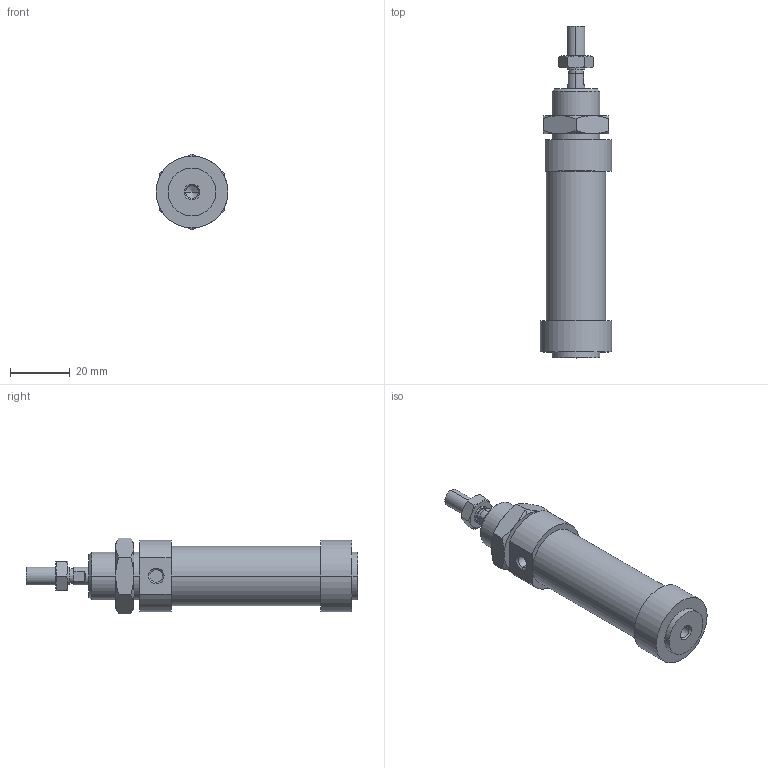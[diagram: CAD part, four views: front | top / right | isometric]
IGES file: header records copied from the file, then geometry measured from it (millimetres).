
Global section: file name: No Iges File Name specified; native system: AutoDesk Inventor R6.0; preprocessor: AutoDesk Inventor Iges Exporter R6.0; author: No Author specified; organization: No Organization specified; date: 20030402.184131; units: millimetre
Bounding box: 24 x 111 x 25.4 mm (x, y, z)
Volume: 31007.7 mm3; surface area: 10469.7 mm2
Topology: 4 solids, 4 shells, 108 faces, 229 edges, 135 vertices
Faces by surface type: cone 34, plane 33, bspline 21, cylinder 16, revolution 4
